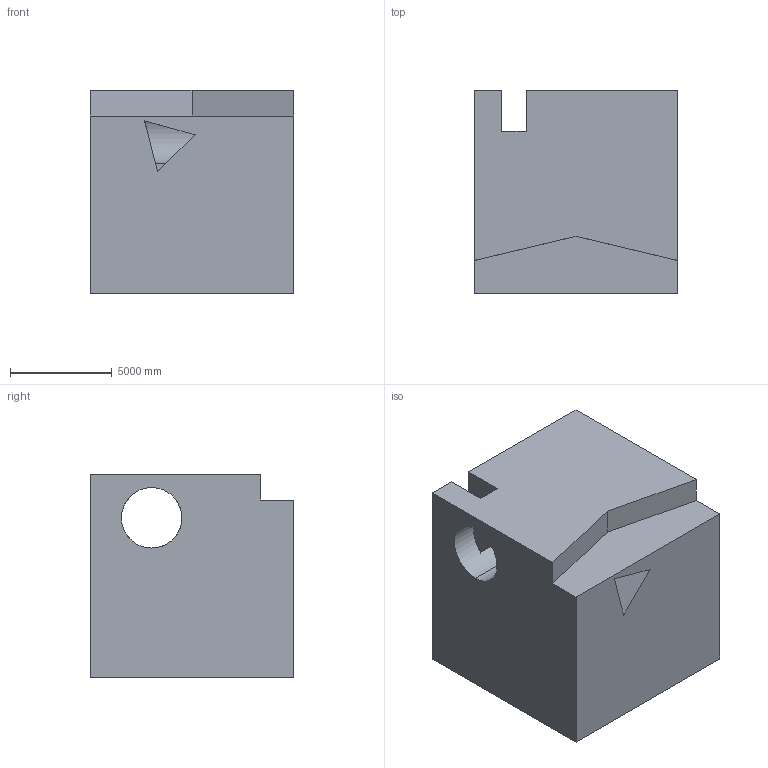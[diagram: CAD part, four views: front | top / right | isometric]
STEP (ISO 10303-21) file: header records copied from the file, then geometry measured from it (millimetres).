
FILE_DESCRIPTION (( 'STEP AP203' ), '1' );
FILE_NAME ('442.STEP', '2022-07-29T11:17:59', ( 'user' ), ( '' ), 'SwSTEP 2.0', 'SolidWorks 2021', '' );
FILE_SCHEMA (( 'CONFIG_CONTROL_DESIGN' ));
Length unit declared in the file: centimetre
Products named in the file (1): 442
Bounding box: 10000 x 10000 x 10000 mm (x, y, z)
Volume: 849251167535.3 mm3; surface area: 790290546.5 mm2
Topology: 1 solids, 1 shells, 24 faces, 69 edges, 46 vertices
Faces by surface type: plane 22, cylinder 2
Entity records: 868 total; most frequent: CARTESIAN_POINT 155, ORIENTED_EDGE 138, DIRECTION 120, EDGE_CURVE 69, VECTOR 58, LINE 58, VERTEX_POINT 46, AXIS2_PLACEMENT_3D 31
